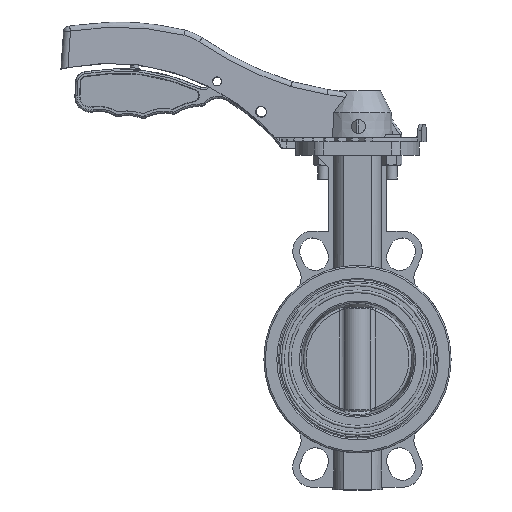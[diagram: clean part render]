
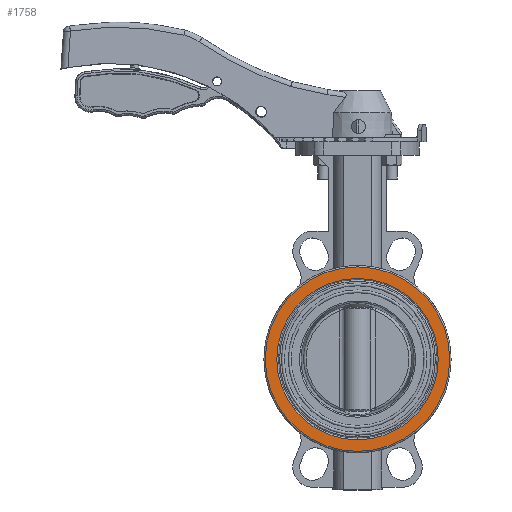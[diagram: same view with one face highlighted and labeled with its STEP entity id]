
A CAD part, top view. The second image highlights one B-rep face of the part: STEP entity #1758.
In plain terms, the highlighted planar face has unit normal (0, 0, 1).
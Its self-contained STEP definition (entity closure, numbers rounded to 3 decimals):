
#1758 = ADVANCED_FACE ( 'NONE', ( #55498, #65533 ), #40007, .T. ) ;
#1925 = AXIS2_PLACEMENT_3D ( 'NONE', #15191, #21259, #36651 ) ;
#6445 = DIRECTION ( 'NONE',  ( 1., 0., 0. ) ) ;
#15191 = CARTESIAN_POINT ( 'NONE',  ( -48.447, -0.094, 23. ) ) ;
#16024 = CARTESIAN_POINT ( 'NONE',  ( 76.162, -0.094, 23. ) ) ;
#18452 = AXIS2_PLACEMENT_3D ( 'NONE', #53134, #33307, #6445 ) ;
#19084 = EDGE_CURVE ( 'NONE', #46569, #46569, #54866, .T. ) ;
#20060 = ORIENTED_EDGE ( 'NONE', *, *, #50488, .T. ) ;
#21259 = DIRECTION ( 'NONE',  ( 0., 0., 1. ) ) ;
#23061 = DIRECTION ( 'NONE',  ( 0., 0., 1. ) ) ;
#24848 = ORIENTED_EDGE ( 'NONE', *, *, #19084, .T. ) ;
#31788 = VERTEX_POINT ( 'NONE', #47569 ) ;
#33307 = DIRECTION ( 'NONE',  ( 0., 0., -1. ) ) ;
#36651 = DIRECTION ( 'NONE',  ( 1., 0., 0. ) ) ;
#38481 = CARTESIAN_POINT ( 'NONE',  ( 9.162, -0.094, 23. ) ) ;
#40007 = PLANE ( 'NONE',  #1925 ) ;
#40800 = EDGE_LOOP ( 'NONE', ( #20060 ) ) ;
#46569 = VERTEX_POINT ( 'NONE', #16024 ) ;
#47569 = CARTESIAN_POINT ( 'NONE',  ( 67.771, -0.094, 23. ) ) ;
#48415 = AXIS2_PLACEMENT_3D ( 'NONE', #38481, #23061, #63378 ) ;
#50488 = EDGE_CURVE ( 'NONE', #31788, #31788, #60197, .T. ) ;
#53096 = EDGE_LOOP ( 'NONE', ( #24848 ) ) ;
#53134 = CARTESIAN_POINT ( 'NONE',  ( 9.162, -0.094, 23. ) ) ;
#54866 = CIRCLE ( 'NONE', #48415, 67. ) ;
#55498 = FACE_BOUND ( 'NONE', #40800, .T. ) ;
#60197 = CIRCLE ( 'NONE', #18452, 58.609 ) ;
#63378 = DIRECTION ( 'NONE',  ( 1., 0., 0. ) ) ;
#65533 = FACE_OUTER_BOUND ( 'NONE', #53096, .T. ) ;
